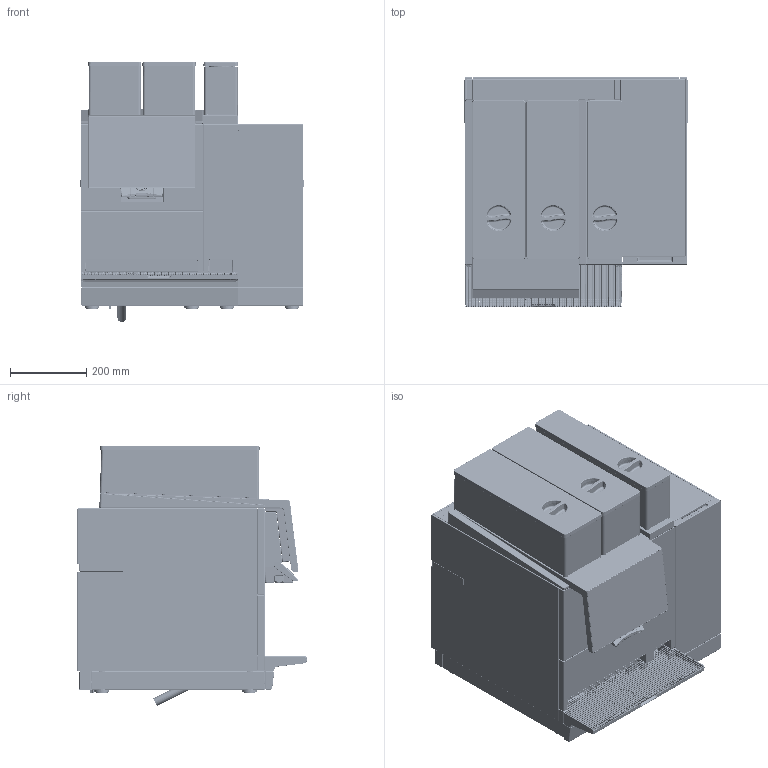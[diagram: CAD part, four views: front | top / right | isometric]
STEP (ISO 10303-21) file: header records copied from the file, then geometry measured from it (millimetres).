
FILE_DESCRIPTION(/* description */ ('Unknown'),/* implementation_level */ '2;1');
FILE_NAME(/* name */ 'BW4_P_F',/* time_stamp */ '2019-08-26T10:58:21+02:00',/* author */ ('Unknown'),/* organization */ ('Unknown'),/* preprocessor_version */ 'ST-DEVELOPER v16.7',/* originating_system */ 'DEX',/* authorisation */ $);
FILE_SCHEMA (('AUTOMOTIVE_DESIGN {1 0 10303 214 3 1 1}'));
Products named in the file (1): BW4_P_F
Bounding box: 583.32 x 599.9 x 679.49 mm (x, y, z)
Surface area: 4826167.5 mm2
Topology: 1 solids, 734 shells, 3448 faces, 22313 edges, 18931 vertices
Faces by surface type: plane 1409, cylinder 1119, torus 379, bspline 281, cone 217, sphere 43
Full cylindrical faces by diameter (mm): 2 x5, 2.5 x156, 3.2 x3, 4 x9, 4.15 x1, 4.2 x2, 4.8 x1, 5.2 x6, 5.4 x4, 5.666 x1, 6 x1, 6.2 x3, 8 x1, 11.4 x4, 13 x2, 13.4 x1, 14 x1, 16 x2, 16.02 x1, 16.682 x1, 16.9 x1, 17.2 x2, 21.2 x1, 21.7 x1, 22.65 x1, 23.15 x1, 24 x2, 29.5 x1, 30 x8
Entity records: 237917 total; most frequent: CARTESIAN_POINT 76409, DIRECTION 30683, ORIENTED_EDGE 25076, EDGE_CURVE 21166, VERTEX_POINT 18534, LINE 10893, VECTOR 10893, AXIS2_PLACEMENT_3D 9895
